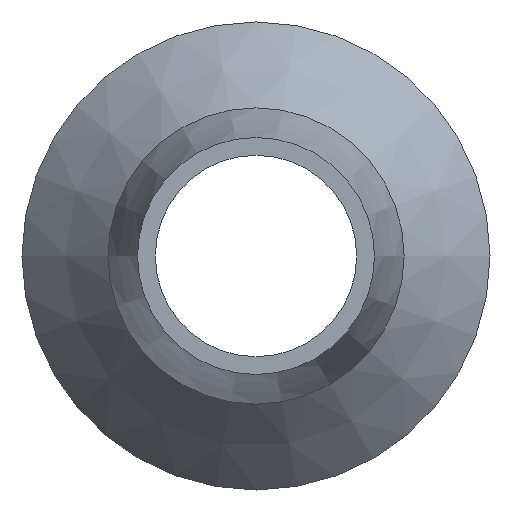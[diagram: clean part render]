
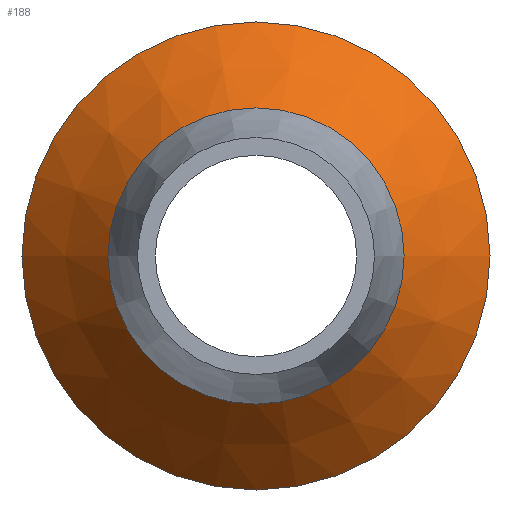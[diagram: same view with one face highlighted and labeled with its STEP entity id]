
A CAD part, left-side view. The second image highlights one B-rep face of the part: STEP entity #188.
In plain terms, the highlighted conical face has half-angle 41.481 degrees and reference radius 32.25 mm.
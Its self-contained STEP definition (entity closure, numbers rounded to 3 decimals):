
#15=CONICAL_SURFACE($,#218,32.25,41.481);
#31=FACE_BOUND($,#71,.T.);
#45=FACE_OUTER_BOUND($,#70,.T.);
#70=EDGE_LOOP($,(#145));
#71=EDGE_LOOP($,(#146));
#90=CIRCLE($,#214,39.5);
#92=CIRCLE($,#219,25.);
#105=VERTEX_POINT($,#317);
#107=VERTEX_POINT($,#324);
#120=EDGE_CURVE($,#105,#105,#90,.T.);
#122=EDGE_CURVE($,#107,#107,#92,.T.);
#145=ORIENTED_EDGE($,*,*,#120,.F.);
#146=ORIENTED_EDGE($,*,*,#122,.T.);
#188=ADVANCED_FACE($,(#45,#31),#15,.T.);
#214=AXIS2_PLACEMENT_3D($,#318,#264,#265);
#218=AXIS2_PLACEMENT_3D($,#323,#272,#273);
#219=AXIS2_PLACEMENT_3D($,#325,#274,#275);
#264=DIRECTION('center_axis',(1.,0.,0.));
#265=DIRECTION('ref_axis',(0.,1.,0.));
#272=DIRECTION('center_axis',(1.,0.,0.));
#273=DIRECTION('ref_axis',(0.,1.,0.));
#274=DIRECTION('center_axis',(1.,0.,0.));
#275=DIRECTION('ref_axis',(0.,1.,0.));
#317=CARTESIAN_POINT('',(25.,39.5,0.));
#318=CARTESIAN_POINT('Origin',(25.,0.,0.));
#323=CARTESIAN_POINT('Origin',(16.8,0.,0.));
#324=CARTESIAN_POINT('',(8.6,25.,0.));
#325=CARTESIAN_POINT('Origin',(8.6,0.,0.));
